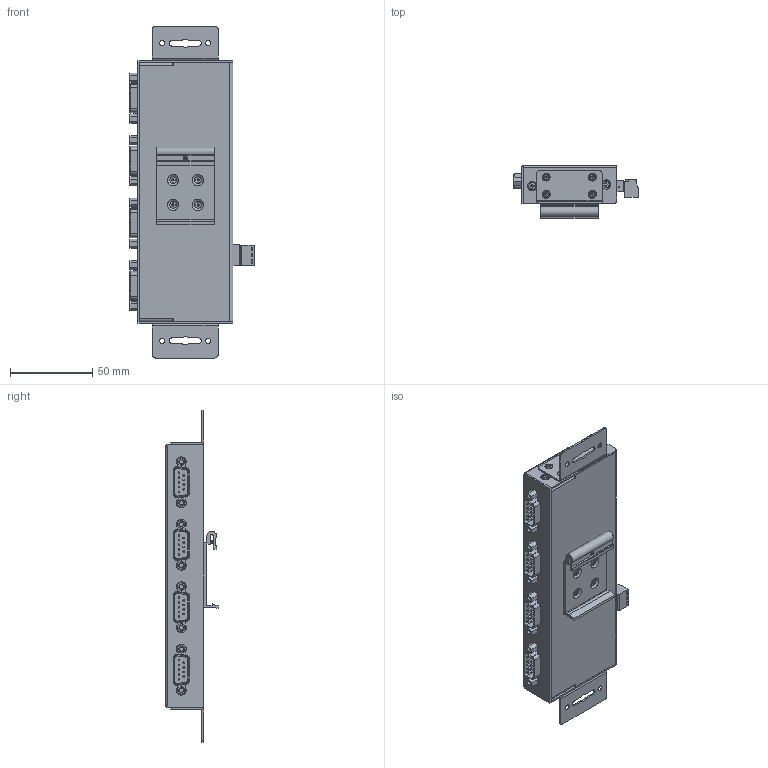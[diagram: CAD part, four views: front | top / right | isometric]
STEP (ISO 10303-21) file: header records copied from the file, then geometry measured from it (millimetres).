
FILE_DESCRIPTION(/* description */ (''),/* implementation_level */ '2;1');
FILE_NAME(/* name */ 'C:/Users/Leo/Desktop/GM-FTDI4X-M/GM-FTDI4X-M Model3D LPV1.step',/* time_stamp */ '2021-04-07T14:39:36-04:00',/* author */ (''),/* organization */ (''),/* preprocessor_version */ 'ST-DEVELOPER v18.1',/* originating_system */ 'Autodesk Translation Framework v9.10.0.1330',/* authorisation */ '');
FILE_SCHEMA (('AUTOMOTIVE_DESIGN { 1 0 10303 214 3 1 1 }'));
Products named in the file (45): GM-FTDI4X-M; FM-3X3_8CCRO_1_2_1; FM-3X3_8CCRO_1_2_1_1; FM-3X3_8CCRO_1_2_1_10; FM-3X3_8CCRO_1_2_1_11; FM-3X3_8CCRO_1_2_1_2; FM-3X3_8CCRO_1_2_1_3; FM-3X3_8CCRO_1_2_1_4; FM-3X3_8CCRO_1_2_1_5; FM-3X3_8CCRO_1_2_1_6; FM-3X3_8CCRO_1_2_1_7; FM-3X3_8CCRO_1_2_1_8; FM-3X3_8CCRO_1_2_1_9; FM3X3_8CCRO_1_2_1; FM3X3_8CCRO_1_2_1_1; FM3X3_8CCRO_1_2_1_2; FM3X3_8CCRO_1_2_1_3; GH-UR204-TOP-F-B_30_1; GHUR204-BOT-F-B_ASM_9_ASM_1; 36_1_2_1; 36_1_2_1_1; 36_1_2_1_2; GHUR204-BOT-F-B_39_1; HUBPA30-38-F-B_1_1; HUBPA30-38-F-B_1_1_1; HUBPA30-43-A-B_3_1; PCB_ASM_6_ASM_14_ASM_1; D-DCIN_1_2_1; LED_2_2_1; LED_2_2_1_1; LED_2_2_1_2; LED_2_2_1_3; LED_2_2_1_4; LED_2_2_1_5; LED_2_2_1_6; LED_2_2_1_7; LED_2_2_1_8; OQ3_81_1_2_1; PCB-204_14_11_1; RS232_1_4_1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
Assembly tree (44 placements, depth 3):
  GM-FTDI4X-M
    FM-3X3_8CCRO_1_2_1
    FM-3X3_8CCRO_1_2_1_1
    FM-3X3_8CCRO_1_2_1_10
    FM-3X3_8CCRO_1_2_1_11
    FM-3X3_8CCRO_1_2_1_2
    FM-3X3_8CCRO_1_2_1_3
    FM-3X3_8CCRO_1_2_1_4
    FM-3X3_8CCRO_1_2_1_5
    FM-3X3_8CCRO_1_2_1_6
    FM-3X3_8CCRO_1_2_1_7
    FM-3X3_8CCRO_1_2_1_8
    FM-3X3_8CCRO_1_2_1_9
    FM3X3_8CCRO_1_2_1
    FM3X3_8CCRO_1_2_1_1
    FM3X3_8CCRO_1_2_1_2
    FM3X3_8CCRO_1_2_1_3
    GH-UR204-TOP-F-B_30_1
    GHUR204-BOT-F-B_ASM_9_ASM_1
      36_1_2_1
      36_1_2_1_1
      36_1_2_1_2
      GHUR204-BOT-F-B_39_1
    HUBPA30-38-F-B_1_1
    HUBPA30-38-F-B_1_1_1
    HUBPA30-43-A-B_3_1
    PCB_ASM_6_ASM_14_ASM_1
      D-DCIN_1_2_1
      LED_2_2_1
      LED_2_2_1_1
      LED_2_2_1_2
      LED_2_2_1_3
      LED_2_2_1_4
      LED_2_2_1_5
      LED_2_2_1_6
      LED_2_2_1_7
      LED_2_2_1_8
      OQ3_81_1_2_1
      PCB-204_14_11_1
      RS232_1_4_1
      RS232_1_4_1_1
      RS232_1_4_1_2
      RS232_1_4_1_3
      USB2_0B_1_2_1
    Terminal 3 Connector 3.5 v2
Bounding box: 75.86 x 32 x 202 mm (x, y, z)
Volume: 66989.7 mm3; surface area: 100577 mm2
Topology: 29 solids, 29 shells, 2295 faces, 5796 edges, 3759 vertices
Faces by surface type: plane 1417, cylinder 518, bspline 157, torus 78, cone 69, sphere 56
Full cylindrical faces by diameter (mm): 1 x36, 1.1 x36, 1.2 x3, 1.5 x1, 2 x7, 2.5 x16, 2.6 x27, 2.8 x22, 3 x9, 3.2 x28, 4 x9, 4.2 x16, 4.5 x16, 6 x3, 6.3 x1
Entity records: 109377 total; most frequent: CARTESIAN_POINT 52804, ORIENTED_EDGE 11480, DIRECTION 11020, EDGE_CURVE 5740, LINE 3932, VECTOR 3932, VERTEX_POINT 3759, AXIS2_PLACEMENT_3D 3544
